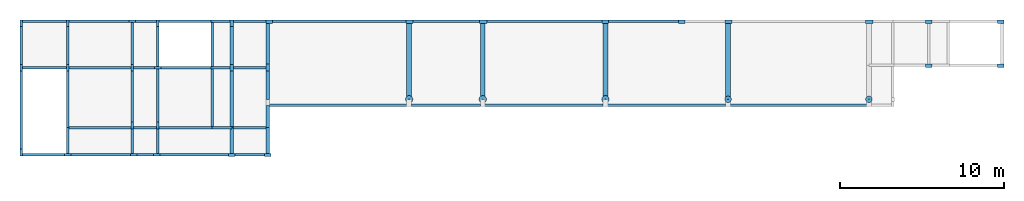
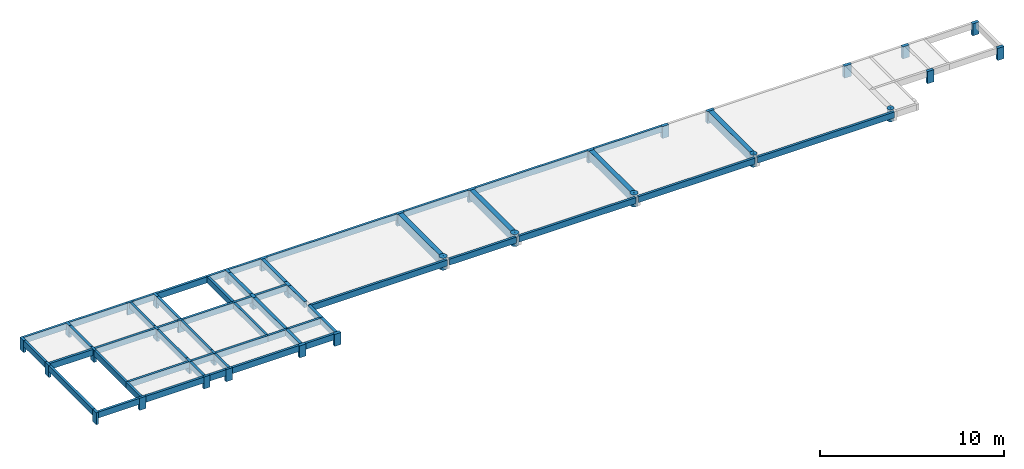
# One storey, part 1 of 2: 55 beams, 35 columns.
"""IFC2X3 building model written with IfcOpenShell, lengths in centimetres."""

import ifcopenshell
import ifcopenshell.guid

model = None  # the IFC model being written
_history = None  # IfcOwnerHistory: only IFC2X3 demands one
_inside = {}  # id of a spatial element -> (the spatial element, [elements in it])
_under = {}  # id of a project, library or spatial element -> (it, [spatial elements below it])
_declared = {}  # id of a project -> (the project, [libraries it declares])
_typed = {}  # id of a type object -> (the type object, [elements of that type])
_made_of = {}  # id of a material, layer set ... -> (it, [elements and type objects made of it])


def new_model(schema):
    """Start an empty IFC model of exactly this schema.

    Asked for "IFC4X3", IfcOpenShell would pick the latest addendum, in which some entities
    have other attributes; the version numbers below select the first issue.
    IFC2X3 requires an IfcOwnerHistory on every rooted entity: one is made here for all.
    """
    global model, _history
    if schema == "IFC4X3":
        model = ifcopenshell.file(schema_version=(4, 3, 0, 0))
    else:
        model = ifcopenshell.file(schema=schema)
    _inside.clear()
    _under.clear()
    _declared.clear()
    _typed.clear()
    _made_of.clear()
    _history = None
    if model.schema == "IFC2X3":
        org = make("IfcOrganization", Name="unknown")
        user = make(
            "IfcPersonAndOrganization",
            ThePerson=make("IfcPerson", FamilyName="unknown"),
            TheOrganization=org,
        )
        app = make(
            "IfcApplication",
            ApplicationDeveloper=org,
            Version="unknown",
            ApplicationFullName="unknown",
            ApplicationIdentifier="unknown",
        )
        _history = make(
            "IfcOwnerHistory",
            OwningUser=user,
            OwningApplication=app,
            ChangeAction="ADDED",
            CreationDate=0,
        )
    return model


def make(cls, **values):
    """One entity of the class cls with the attributes given. An attribute that is None is left unset."""
    return model.create_entity(
        cls, **{name: value for name, value in values.items() if value is not None}
    )


def rooted(cls, **values):
    """An entity with a GlobalId (a new one), such as an element, a storey or a relation."""
    return make(cls, GlobalId=ifcopenshell.guid.new(), OwnerHistory=_history, **values)


def si_unit(unit_type, name, prefix=None):
    """IfcSIUnit, for example si_unit("LENGTHUNIT", "METRE", prefix="MILLI")."""
    return make("IfcSIUnit", UnitType=unit_type, Prefix=prefix, Name=name)


def derived_unit(unit_type, elements):
    """IfcDerivedUnit: a product of units, each with its exponent."""
    return make(
        "IfcDerivedUnit",
        Elements=[
            make("IfcDerivedUnitElement", Unit=unit, Exponent=power)
            for unit, power in elements
        ],
        UnitType=unit_type,
    )


def assignment(units):
    """IfcUnitAssignment: the units of a project."""
    return None if units is None else make("IfcUnitAssignment", Units=units)


def point(xyz):
    """IfcCartesianPoint."""
    return None if xyz is None else make("IfcCartesianPoint", Coordinates=xyz)


def direction(xyz):
    """IfcDirection."""
    return None if xyz is None else make("IfcDirection", DirectionRatios=xyz)


def frame(location, z_axis=None, x_axis=None):
    """IfcAxis2Placement3D, a coordinate frame: its origin and axes. An axis left out is left unset."""
    return make(
        "IfcAxis2Placement3D",
        Location=point(location),
        Axis=direction(z_axis),
        RefDirection=direction(x_axis),
    )


def frame_2d(location, x_axis=None):
    """IfcAxis2Placement2D, a coordinate frame in the plane: its origin and x axis."""
    return make(
        "IfcAxis2Placement2D", Location=point(location), RefDirection=direction(x_axis)
    )


def origin():
    """The frame at (0, 0, 0) with its axes left unset."""
    return frame((0.0, 0.0, 0.0))


def origin_with_axes():
    """The frame at (0, 0, 0) with the z axis (0, 0, 1) and the x axis (1, 0, 0) written out."""
    return frame((0.0, 0.0, 0.0), z_axis=(0.0, 0.0, 1.0), x_axis=(1.0, 0.0, 0.0))


def origin_2d_with_axis():
    """The frame at (0, 0) in the plane with the x axis (1, 0) written out."""
    return frame_2d((0.0, 0.0), x_axis=(1.0, 0.0))


def place(relative_to, where):
    """IfcLocalPlacement: puts the frame where relative to a parent placement (None: the world)."""
    return make(
        "IfcLocalPlacement", PlacementRelTo=relative_to, RelativePlacement=where
    )


def context(
    kind, dimensions, precision=None, world=None, true_north=None, identifier=None
):
    """IfcGeometricRepresentationContext, for example the 3D "Model" context."""
    return make(
        "IfcGeometricRepresentationContext",
        ContextIdentifier=identifier,
        ContextType=kind,
        CoordinateSpaceDimension=dimensions,
        Precision=precision,
        WorldCoordinateSystem=world,
        TrueNorth=true_north,
    )


def project(units=None, contexts=None):
    """IfcProject with its units and contexts."""
    return rooted(
        "IfcProject",
        Name="project",
        RepresentationContexts=contexts,
        UnitsInContext=assignment(units),
    )


def spatial(cls, under=None, at=None, **own):
    """A site, building, storey or space (cls), placed at a placement, below another one or the project."""
    s = rooted(cls, ObjectPlacement=at, **own)
    if under is not None:
        _under.setdefault(under.id(), (under, []))[1].append(s)
    return s


def profile(cls, at=None, kind="AREA", **sizes):
    """A parametric profile (cls). Its sizes go by their IFC names, for example OverallWidth=200.0."""
    return make(cls, ProfileType=kind, Position=at, **sizes)


def rectangle(**sizes):
    """IfcRectangleProfileDef."""
    return profile("IfcRectangleProfileDef", **sizes)


def hollow_circle(**sizes):
    """IfcCircleHollowProfileDef."""
    return profile("IfcCircleHollowProfileDef", **sizes)


def extrude(swept, where, along, depth):
    """IfcExtrudedAreaSolid: the profile swept, set in the frame where, extruded along a direction by depth."""
    return make(
        "IfcExtrudedAreaSolid",
        SweptArea=swept,
        Position=where,
        ExtrudedDirection=direction(along),
        Depth=depth,
    )


def shape(context_of_items, identifier, shape_type, items):
    """IfcShapeRepresentation: the items that make up one representation, for example the "Body"."""
    return make(
        "IfcShapeRepresentation",
        ContextOfItems=context_of_items,
        RepresentationIdentifier=identifier,
        RepresentationType=shape_type,
        Items=items,
    )


def material(Name=None, Category=None):
    """IfcMaterial."""
    return make("IfcMaterial", Name=Name, Category=Category)


def made_of(thing, what):
    """Note that an element or type object is made of a material, layer set ...; save() writes the relation."""
    if what is not None:
        _made_of.setdefault(what.id(), (what, []))[1].append(thing)
    return thing


def element(
    cls,
    number,
    at=None,
    inside=None,
    cuts=None,
    type_object=None,
    material=None,
    context=None,
    identifier="Body",
    shape_type=None,
    held_by="IfcProductDefinitionShape",
    body=None,
    shapes=None,
    **own,
):
    """One element of the class cls, such as IfcWall. Its Tag is "e" and its number.

    at: its placement. inside: the storey or other place that contains it. cuts: it is an
    opening in that element (IfcRelVoidsElement). A single representation is given by context,
    identifier, shape_type and body (its items); several are given by shapes. held_by: the class
    of the entity that holds the representations. save() writes the other relations.
    """
    e = rooted(cls, Tag="e%d" % number, ObjectPlacement=at, **own)
    if body is not None:
        shapes = [shape(context, identifier, shape_type, body)]
    if shapes is not None:
        e.Representation = make(held_by, Representations=shapes)
    if inside is not None:
        _inside.setdefault(inside.id(), (inside, []))[1].append(e)
    if cuts is not None:
        rooted(
            "IfcRelVoidsElement", RelatingBuildingElement=cuts, RelatedOpeningElement=e
        )
    if type_object is not None:
        _typed.setdefault(type_object.id(), (type_object, []))[1].append(e)
    return made_of(e, material)


def aggregate(whole, parts):
    """IfcRelAggregates: a whole, such as a stair, and the parts it consists of."""
    return rooted("IfcRelAggregates", RelatingObject=whole, RelatedObjects=parts)


def save(model, path):
    """Write the relations noted so far, then the file.

    IfcRelAggregates (storeys below a building ...), IfcRelContainedInSpatialStructure (elements
    in a storey), IfcRelDefinesByType, IfcRelAssociatesMaterial and IfcRelDeclares: one each for
    every whole, place, type object, material and project.
    """
    for whole, parts in _under.values():
        aggregate(whole, parts)
    for where, things in _inside.values():
        rooted(
            "IfcRelContainedInSpatialStructure",
            RelatedElements=things,
            RelatingStructure=where,
        )
    for kind, things in _typed.values():
        rooted("IfcRelDefinesByType", RelatedObjects=things, RelatingType=kind)
    for what, things in _made_of.values():
        rooted("IfcRelAssociatesMaterial", RelatedObjects=things, RelatingMaterial=what)
    for by, libraries in _declared.values():
        rooted("IfcRelDeclares", RelatingContext=by, RelatedDefinitions=libraries)
    model.write(path)


model = new_model("IFC2X3")

# Units and contexts
model_context = context("Model", 3, precision=1e-05, world=origin_with_axes(), identifier="Body")
ifc_project = project(units=[si_unit("LENGTHUNIT", "METRE", prefix="CENTI"), si_unit("VOLUMEUNIT", "CUBIC_METRE"), si_unit("AREAUNIT", "SQUARE_METRE"), si_unit("POWERUNIT", "WATT"), si_unit("LUMINOUSFLUXUNIT", "LUMEN"), si_unit("ELECTRICCURRENTUNIT", "AMPERE"), si_unit("PRESSUREUNIT", "PASCAL", prefix="KILO"), si_unit("MASSUNIT", "GRAM", prefix="KILO"), si_unit("PLANEANGLEUNIT", "RADIAN"), derived_unit("VOLUMETRICFLOWRATEUNIT", [(si_unit("LENGTHUNIT", "METRE"), 3), (si_unit("TIMEUNIT", "SECOND"), -1)])], contexts=[model_context])

# Site, building, storey
site_placement = place(None, origin_with_axes())
site = spatial("IfcSite", under=ifc_project, at=site_placement)
building_placement = place(site_placement, origin())
building = spatial("IfcBuilding", under=site, at=building_placement)
placement = place(building_placement, origin_with_axes())
storey_placement = place(placement, frame((0.0, 0.0, 80.0), z_axis=(0.0, 0.0, 1.0), x_axis=(1.0, 0.0, 0.0)))
storey = spatial("IfcBuildingStorey", under=building, at=storey_placement, Name="02. Térreo", CompositionType="ELEMENT", Elevation=80.0)

# Columns
ifc_material = material(Name="Concreto")
column_1_placement = place(storey_placement, frame((-1732.96, -294.11, 0.0), z_axis=(0.0, 0.0, 1.0), x_axis=(1.0, 0.0, 0.0)))
element("IfcColumn", 1, at=column_1_placement, inside=storey, material=ifc_material, Name="P1", context=model_context, shape_type="SolidModel", body=[
    extrude(rectangle(XDim=15.0, YDim=40.0, at=origin_2d_with_axis()), origin_with_axes(), (0.0, 0.0, -1.0), 80.0),
])
for number, where, z_axis, x_axis, name in (
    (2, (1838.54, -284.11, 0.0), (0.0, 0.0, 1.0), (1.0, 0.0, 0.0), "P10"),
    (3, (2305.54, -284.11, 0.0), (0.0, 0.0, 1.0), (1.0, 0.0, 0.0), "P11"),
):
    element("IfcColumn", number, at=place(storey_placement, frame(where, z_axis=z_axis, x_axis=x_axis)), inside=storey, material=ifc_material, Name=name, context=model_context, shape_type="SolidModel", body=[
        extrude(rectangle(XDim=20.0, YDim=40.0, at=origin_2d_with_axis()), frame((0.0, 0.0, 0.0), z_axis=(0.0, 0.0, 1.0), x_axis=(0.0, -1.0, 0.0)), (0.0, 0.0, -1.0), 80.0),
    ])
for number, where, z_axis, x_axis, name in (
    (4, (2591.04, -284.11, 0.0), (0.0, 0.0, 1.0), (1.0, 0.0, 0.0), "P12"),
    (5, (3452.04, -284.11, 0.0), (0.0, 0.0, 1.0), (1.0, 0.0, 0.0), "P13"),
):
    element("IfcColumn", number, at=place(storey_placement, frame(where, z_axis=z_axis, x_axis=x_axis)), inside=storey, material=ifc_material, Name=name, context=model_context, shape_type="SolidModel", body=[
        extrude(rectangle(XDim=20.0, YDim=45.0, at=origin_2d_with_axis()), frame((0.0, 0.0, 0.0), z_axis=(0.0, 0.0, 1.0), x_axis=(0.0, -1.0, 0.0)), (0.0, 0.0, -1.0), 80.0),
    ])
for number, where, z_axis, x_axis, name in (
    (6, (3816.04, -284.11, 0.0), (0.0, 0.0, 1.0), (1.0, 0.0, 0.0), "P14"),
    (7, (4255.54, -284.11, 0.0), (0.0, 0.0, 1.0), (1.0, 0.0, 0.0), "P15"),
):
    element("IfcColumn", number, at=place(storey_placement, frame(where, z_axis=z_axis, x_axis=x_axis)), inside=storey, material=ifc_material, Name=name, context=model_context, shape_type="SolidModel", body=[
        extrude(rectangle(XDim=20.0, YDim=40.0, at=origin_2d_with_axis()), frame((0.0, 0.0, 0.0), z_axis=(0.0, 0.0, 1.0), x_axis=(0.0, -1.0, 0.0)), (0.0, 0.0, -1.0), 80.0),
    ])
for number, where, z_axis, x_axis, name in (
    (8, (-1732.96, -566.61, 0.0), (0.0, 0.0, 1.0), (1.0, 0.0, 0.0), "P16"),
    (9, (-1447.96, -566.61, 0.0), (0.0, 0.0, 1.0), (1.0, 0.0, 0.0), "P17"),
):
    element("IfcColumn", number, at=place(storey_placement, frame(where, z_axis=z_axis, x_axis=x_axis)), inside=storey, material=ifc_material, Name=name, context=model_context, shape_type="SolidModel", body=[
        extrude(rectangle(XDim=15.0, YDim=40.0, at=origin_2d_with_axis()), origin_with_axes(), (0.0, 0.0, -1.0), 80.0),
    ])
column_2_placement = place(storey_placement, frame((-1052.96, -566.61, 0.0), z_axis=(0.0, 0.0, 1.0), x_axis=(1.0, 0.0, 0.0)))
element("IfcColumn", 10, at=column_2_placement, inside=storey, material=ifc_material, Name="P18", context=model_context, shape_type="SolidModel", body=[
    extrude(rectangle(XDim=15.0, YDim=40.0, at=origin_2d_with_axis()), frame((0.0, 0.0, 0.0), z_axis=(0.0, 0.0, 1.0), x_axis=(-1.0, 0.0, 0.0)), (0.0, 0.0, -1.0), 80.0),
])
column_3_placement = place(storey_placement, frame((-897.96, -566.61, 0.0), z_axis=(0.0, 0.0, 1.0), x_axis=(1.0, 0.0, 0.0)))
element("IfcColumn", 11, at=column_3_placement, inside=storey, material=ifc_material, Name="P19", context=model_context, shape_type="SolidModel", body=[
    extrude(rectangle(XDim=15.0, YDim=40.0, at=origin_2d_with_axis()), frame((0.0, 0.0, 0.0), z_axis=(0.0, 0.0, 1.0), x_axis=(0.0, -1.0, 0.0)), (0.0, 0.0, -1.0), 80.0),
])
column_4_placement = place(storey_placement, frame((-1447.96, -294.11, 0.0), z_axis=(0.0, 0.0, 1.0), x_axis=(1.0, 0.0, 0.0)))
element("IfcColumn", 12, at=column_4_placement, inside=storey, material=ifc_material, Name="P2", context=model_context, shape_type="SolidModel", body=[
    extrude(rectangle(XDim=15.0, YDim=40.0, at=origin_2d_with_axis()), origin_with_axes(), (0.0, 0.0, -1.0), 80.0),
])
column_5_placement = place(storey_placement, frame((-445.46, -566.61, 0.0), z_axis=(0.0, 0.0, 1.0), x_axis=(1.0, 0.0, 0.0)))
element("IfcColumn", 13, at=column_5_placement, inside=storey, material=ifc_material, Name="P20", context=model_context, shape_type="SolidModel", body=[
    extrude(rectangle(XDim=20.0, YDim=40.0, at=origin_2d_with_axis()), origin_with_axes(), (0.0, 0.0, -1.0), 80.0),
])
column_6_placement = place(storey_placement, frame((-225.46, -564.11, 0.0), z_axis=(0.0, 0.0, 1.0), x_axis=(1.0, 0.0, 0.0)))
element("IfcColumn", 14, at=column_6_placement, inside=storey, material=ifc_material, Name="P21", context=model_context, shape_type="SolidModel", body=[
    extrude(rectangle(XDim=20.0, YDim=45.0, at=origin_2d_with_axis()), origin_with_axes(), (0.0, 0.0, -1.0), 80.0),
])
for number, where, z_axis, x_axis, name in (
    (15, (3816.04, -554.11, 0.0), (0.0, 0.0, 1.0), (1.0, 0.0, 0.0), "P22"),
    (16, (4255.54, -554.11, 0.0), (0.0, 0.0, 1.0), (1.0, 0.0, 0.0), "P23"),
):
    element("IfcColumn", number, at=place(storey_placement, frame(where, z_axis=z_axis, x_axis=x_axis)), inside=storey, material=ifc_material, Name=name, context=model_context, shape_type="SolidModel", body=[
        extrude(rectangle(XDim=20.0, YDim=40.0, at=origin_2d_with_axis()), frame((0.0, 0.0, 0.0), z_axis=(0.0, 0.0, 1.0), x_axis=(0.0, -1.0, 0.0)), (0.0, 0.0, -1.0), 80.0),
    ])
for number, where, z_axis, x_axis, name in (
    (17, (638.67, -758.96, 0.0), (0.0, 0.0, 1.0), (1.0, 0.0, 0.0), "P28"),
    (18, (1088.67, -758.96, 0.0), (0.0, 0.0, 1.0), (1.0, 0.0, 0.0), "P29"),
):
    element("IfcColumn", number, at=place(storey_placement, frame(where, z_axis=z_axis, x_axis=x_axis)), inside=storey, material=ifc_material, Name=name, context=model_context, shape_type="SolidModel", body=[
        extrude(hollow_circle(Radius=22.5, WallThickness=20.0, at=origin_2d_with_axis()), origin_with_axes(), (0.0, 0.0, -1.0), 80.0),
    ])
column_7_placement = place(storey_placement, frame((-1052.96, -282.08, 0.0), z_axis=(0.0, 0.0, 1.0), x_axis=(1.0, 0.0, 0.0)))
element("IfcColumn", 19, at=column_7_placement, inside=storey, material=ifc_material, Name="P3", context=model_context, shape_type="SolidModel", body=[
    extrude(rectangle(XDim=15.0, YDim=40.0, at=origin_2d_with_axis()), frame((0.0, 0.0, 0.0), z_axis=(0.0, 0.0, 1.0), x_axis=(0.0, -1.0, 0.0)), (0.0, 0.0, -1.0), 80.0),
])
column_8_placement = place(storey_placement, frame((1838.67, -758.96, 0.0), z_axis=(0.0, 0.0, 1.0), x_axis=(1.0, 0.0, 0.0)))
element("IfcColumn", 20, at=column_8_placement, inside=storey, material=ifc_material, Name="P30", context=model_context, shape_type="SolidModel", body=[
    extrude(hollow_circle(Radius=22.5, WallThickness=20.0, at=origin_2d_with_axis()), origin_with_axes(), (0.0, 0.0, -1.0), 80.0),
])
for number, where, z_axis, x_axis, name in (
    (21, (2588.67, -758.96, 0.0), (0.0, 0.0, 1.0), (1.0, 0.0, 0.0), "P31"),
    (22, (3449.67, -758.96, 0.0), (0.0, 0.0, 1.0), (1.0, 0.0, 0.0), "P32"),
):
    element("IfcColumn", number, at=place(storey_placement, frame(where, z_axis=z_axis, x_axis=x_axis)), inside=storey, material=ifc_material, Name=name, context=model_context, shape_type="SolidModel", body=[
        extrude(hollow_circle(Radius=20.0, WallThickness=17.5, at=origin_2d_with_axis()), origin_with_axes(), (0.0, 0.0, -1.0), 80.0),
    ])
column_9_placement = place(storey_placement, frame((-1052.96, -919.11, 0.0), z_axis=(0.0, 0.0, 1.0), x_axis=(1.0, 0.0, 0.0)))
element("IfcColumn", 23, at=column_9_placement, inside=storey, material=ifc_material, Name="P33", context=model_context, shape_type="SolidModel", body=[
    extrude(rectangle(XDim=15.0, YDim=40.0, at=origin_2d_with_axis()), frame((0.0, 0.0, 0.0), z_axis=(0.0, 0.0, 1.0), x_axis=(-1.0, 0.0, 0.0)), (0.0, 0.0, -1.0), 80.0),
])
for number, where, z_axis, x_axis, name in (
    (24, (-897.96, -919.11, 0.0), (0.0, 0.0, 1.0), (1.0, 0.0, 0.0), "P34"),
    (25, (-1732.96, -1084.11, 0.0), (0.0, 0.0, 1.0), (1.0, 0.0, 0.0), "P35"),
):
    element("IfcColumn", number, at=place(storey_placement, frame(where, z_axis=z_axis, x_axis=x_axis)), inside=storey, material=ifc_material, Name=name, context=model_context, shape_type="SolidModel", body=[
        extrude(rectangle(XDim=15.0, YDim=40.0, at=origin_2d_with_axis()), origin_with_axes(), (0.0, 0.0, -1.0), 80.0),
    ])
for number, where, z_axis, x_axis, name in (
    (26, (-1447.96, -1096.61, 0.0), (0.0, 0.0, 1.0), (1.0, 0.0, 0.0), "P36"),
    (27, (-1044.96, -1096.6, 0.0), (0.0, 0.0, 1.0), (1.0, 0.0, 0.0), "P37"),
    (28, (-904.46, -1096.6, 0.0), (0.0, 0.0, 1.0), (1.0, 0.0, 0.0), "P38"),
):
    element("IfcColumn", number, at=place(storey_placement, frame(where, z_axis=z_axis, x_axis=x_axis)), inside=storey, material=ifc_material, Name=name, context=model_context, shape_type="SolidModel", body=[
        extrude(rectangle(XDim=15.0, YDim=40.0, at=origin_2d_with_axis()), frame((0.0, 0.0, 0.0), z_axis=(0.0, 0.0, 1.0), x_axis=(0.0, -1.0, 0.0)), (0.0, 0.0, -1.0), 80.0),
    ])
column_10_placement = place(storey_placement, frame((-445.46, -1099.1, 0.0), z_axis=(0.0, 0.0, 1.0), x_axis=(1.0, 0.0, 0.0)))
element("IfcColumn", 29, at=column_10_placement, inside=storey, material=ifc_material, Name="P39", context=model_context, shape_type="SolidModel", body=[
    extrude(rectangle(XDim=20.0, YDim=40.0, at=origin_2d_with_axis()), frame((0.0, 0.0, 0.0), z_axis=(0.0, 0.0, 1.0), x_axis=(0.0, -1.0, 0.0)), (0.0, 0.0, -1.0), 80.0),
])
column_11_placement = place(storey_placement, frame((-897.96, -294.11, 0.0), z_axis=(0.0, 0.0, 1.0), x_axis=(1.0, 0.0, 0.0)))
element("IfcColumn", 30, at=column_11_placement, inside=storey, material=ifc_material, Name="P4", context=model_context, shape_type="SolidModel", body=[
    extrude(rectangle(XDim=15.0, YDim=40.0, at=origin_2d_with_axis()), origin_with_axes(), (0.0, 0.0, -1.0), 80.0),
])
column_12_placement = place(storey_placement, frame((-225.46, -1099.1, 0.0), z_axis=(0.0, 0.0, 1.0), x_axis=(1.0, 0.0, 0.0)))
element("IfcColumn", 31, at=column_12_placement, inside=storey, material=ifc_material, Name="P40", context=model_context, shape_type="SolidModel", body=[
    extrude(rectangle(XDim=20.0, YDim=40.0, at=origin_2d_with_axis()), frame((0.0, 0.0, 0.0), z_axis=(0.0, 0.0, 1.0), x_axis=(0.0, -1.0, 0.0)), (0.0, 0.0, -1.0), 80.0),
])
column_13_placement = place(storey_placement, frame((-445.46, -294.11, 0.0), z_axis=(0.0, 0.0, 1.0), x_axis=(1.0, 0.0, 0.0)))
element("IfcColumn", 32, at=column_13_placement, inside=storey, material=ifc_material, Name="P5", context=model_context, shape_type="SolidModel", body=[
    extrude(rectangle(XDim=20.0, YDim=40.0, at=origin_2d_with_axis()), origin_with_axes(), (0.0, 0.0, -1.0), 80.0),
])
column_14_placement = place(storey_placement, frame((-215.46, -284.11, 0.0), z_axis=(0.0, 0.0, 1.0), x_axis=(1.0, 0.0, 0.0)))
element("IfcColumn", 33, at=column_14_placement, inside=storey, material=ifc_material, Name="P6", context=model_context, shape_type="SolidModel", body=[
    extrude(rectangle(XDim=20.0, YDim=40.0, at=origin_2d_with_axis()), frame((0.0, 0.0, 0.0), z_axis=(0.0, 0.0, 1.0), x_axis=(0.0, -1.0, 0.0)), (0.0, 0.0, -1.0), 80.0),
])
for number, where, z_axis, x_axis, name in (
    (34, (641.04, -284.11, 0.0), (0.0, 0.0, 1.0), (1.0, 0.0, 0.0), "P8"),
    (35, (1091.04, -284.11, 0.0), (0.0, 0.0, 1.0), (1.0, 0.0, 0.0), "P9"),
):
    element("IfcColumn", number, at=place(storey_placement, frame(where, z_axis=z_axis, x_axis=x_axis)), inside=storey, material=ifc_material, Name=name, context=model_context, shape_type="SolidModel", body=[
        extrude(rectangle(XDim=20.0, YDim=45.0, at=origin_2d_with_axis()), frame((0.0, 0.0, 0.0), z_axis=(0.0, 0.0, 1.0), x_axis=(0.0, -1.0, 0.0)), (0.0, 0.0, -1.0), 80.0),
    ])

# Beams
beam_1_placement = place(storey_placement, frame((-1590.46, -281.61, 0.0), z_axis=(0.0, 0.0, 1.0), x_axis=(1.0, 0.0, 0.0)))
element("IfcBeam", 36, at=beam_1_placement, inside=storey, material=ifc_material, Name="V1", context=model_context, shape_type="SolidModel", body=[
    extrude(rectangle(XDim=15.0, YDim=40.0, at=origin_2d_with_axis()), frame((-135.0, 0.0, -20.0), z_axis=(1.0, 0.0, 0.0), x_axis=(0.0, -1.0, 0.0)), (0.0, 0.0, 1.0), 270.0),
])
beam_2_placement = place(storey_placement, frame((-979.21, -281.61, 0.0), z_axis=(0.0, 0.0, 1.0), x_axis=(1.0, 0.0, 0.0)))
element("IfcBeam", 37, at=beam_2_placement, inside=storey, material=ifc_material, Name="V1", context=model_context, shape_type="SolidModel", body=[
    extrude(rectangle(XDim=15.0, YDim=40.0, at=origin_2d_with_axis()), frame((-73.75, 0.0, -20.0), z_axis=(1.0, 0.0, 0.0), x_axis=(0.0, -1.0, 0.0)), (0.0, 0.0, 1.0), 147.5),
])
beam_3_placement = place(storey_placement, frame((-727.96, -281.61, 0.0), z_axis=(0.0, 0.0, 1.0), x_axis=(1.0, 0.0, 0.0)))
element("IfcBeam", 38, at=beam_3_placement, inside=storey, material=ifc_material, Name="V1", context=model_context, shape_type="SolidModel", body=[
    extrude(rectangle(XDim=15.0, YDim=40.0, at=origin_2d_with_axis()), frame((-162.5, 0.0, -20.0), z_axis=(1.0, 0.0, 0.0), x_axis=(0.0, -1.0, 0.0)), (0.0, 0.0, 1.0), 325.0),
])
beam_4_placement = place(storey_placement, frame((-335.46, -281.61, 0.0), z_axis=(0.0, 0.0, 1.0), x_axis=(1.0, 0.0, 0.0)))
element("IfcBeam", 39, at=beam_4_placement, inside=storey, material=ifc_material, Name="V1", context=model_context, shape_type="SolidModel", body=[
    extrude(rectangle(XDim=15.0, YDim=40.0, at=origin_2d_with_axis()), frame((-100.0, 0.0, -20.0), z_axis=(1.0, 0.0, 0.0), x_axis=(0.0, -1.0, 0.0)), (0.0, 0.0, 1.0), 200.0),
])
beam_5_placement = place(storey_placement, frame((211.54, -281.61, 0.0), z_axis=(0.0, 0.0, 1.0), x_axis=(1.0, 0.0, 0.0)))
element("IfcBeam", 40, at=beam_5_placement, inside=storey, material=ifc_material, Name="V1", context=model_context, shape_type="SolidModel", body=[
    extrude(rectangle(XDim=15.0, YDim=40.0, at=origin_2d_with_axis()), frame((-407.0, 0.0, -20.0), z_axis=(1.0, 0.0, 0.0), x_axis=(0.0, -1.0, 0.0)), (0.0, 0.0, 1.0), 814.0),
])
beam_6_placement = place(storey_placement, frame((-514.21, -281.61, 0.0), z_axis=(0.0, 0.0, 1.0), x_axis=(1.0, 0.0, 0.0)))
element("IfcBeam", 41, at=beam_6_placement, inside=storey, material=ifc_material, Name="V1", context=model_context, shape_type="SolidModel", body=[
    extrude(rectangle(XDim=15.0, YDim=40.0, at=origin_2d_with_axis()), frame((-58.75, 0.0, -20.0), z_axis=(1.0, 0.0, 0.0), x_axis=(0.0, -1.0, 0.0)), (0.0, 0.0, 1.0), 117.5),
])
beam_7_placement = place(storey_placement, frame((-1246.71, -281.61, 0.0), z_axis=(0.0, 0.0, 1.0), x_axis=(1.0, 0.0, 0.0)))
element("IfcBeam", 42, at=beam_7_placement, inside=storey, material=ifc_material, Name="V1", context=model_context, shape_type="SolidModel", body=[
    extrude(rectangle(XDim=15.0, YDim=40.0, at=origin_2d_with_axis()), frame((-193.75, 0.0, -20.0), z_axis=(1.0, 0.0, 0.0), x_axis=(0.0, -1.0, 0.0)), (0.0, 0.0, 1.0), 387.5),
])
beam_8_placement = place(storey_placement, frame((-975.46, -931.61, 0.0), z_axis=(0.0, 0.0, 1.0), x_axis=(1.0, 0.0, 0.0)))
element("IfcBeam", 43, at=beam_8_placement, inside=storey, material=ifc_material, Name="V10", context=model_context, shape_type="SolidModel", body=[
    extrude(rectangle(XDim=15.0, YDim=40.0, at=origin_2d_with_axis()), frame((-70.0, 0.0, -20.0), z_axis=(1.0, 0.0, 0.0), x_axis=(0.0, -1.0, 0.0)), (0.0, 0.0, 1.0), 140.0),
])
beam_9_placement = place(storey_placement, frame((-1254.21, -931.61, 0.0), z_axis=(0.0, 0.0, 1.0), x_axis=(1.0, 0.0, 0.0)))
element("IfcBeam", 44, at=beam_9_placement, inside=storey, material=ifc_material, Name="V10", context=model_context, shape_type="SolidModel", body=[
    extrude(rectangle(XDim=15.0, YDim=40.0, at=origin_2d_with_axis()), frame((-193.75, 0.0, -20.0), z_axis=(1.0, 0.0, 0.0), x_axis=(0.0, -1.0, 0.0)), (0.0, 0.0, 1.0), 387.5),
])
beam_10_placement = place(storey_placement, frame((-505.46, -931.61, 0.0), z_axis=(0.0, 0.0, 1.0), x_axis=(1.0, 0.0, 0.0)))
element("IfcBeam", 45, at=beam_10_placement, inside=storey, material=ifc_material, Name="V11", context=model_context, shape_type="SolidModel", body=[
    extrude(rectangle(XDim=15.0, YDim=40.0, at=origin_2d_with_axis()), frame((-60.0, 0.0, -20.0), z_axis=(1.0, 0.0, 0.0), x_axis=(0.0, -1.0, 0.0)), (0.0, 0.0, 1.0), 120.0),
])
beam_11_placement = place(storey_placement, frame((-727.96, -931.61, 0.0), z_axis=(0.0, 0.0, 1.0), x_axis=(1.0, 0.0, 0.0)))
element("IfcBeam", 46, at=beam_11_placement, inside=storey, material=ifc_material, Name="V11", context=model_context, shape_type="SolidModel", body=[
    extrude(rectangle(XDim=15.0, YDim=40.0, at=origin_2d_with_axis()), frame((-162.5, 0.0, -20.0), z_axis=(1.0, 0.0, 0.0), x_axis=(0.0, -1.0, 0.0)), (0.0, 0.0, 1.0), 325.0),
])
beam_12_placement = place(storey_placement, frame((-335.46, -931.61, 0.0), z_axis=(0.0, 0.0, 1.0), x_axis=(1.0, 0.0, 0.0)))
element("IfcBeam", 47, at=beam_12_placement, inside=storey, material=ifc_material, Name="V11", context=model_context, shape_type="SolidModel", body=[
    extrude(rectangle(XDim=15.0, YDim=40.0, at=origin_2d_with_axis()), frame((-110.0, 0.0, -20.0), z_axis=(1.0, 0.0, 0.0), x_axis=(0.0, -1.0, 0.0)), (0.0, 0.0, 1.0), 220.0),
])
beam_13_placement = place(storey_placement, frame((-1596.71, -1096.6, 0.0), z_axis=(0.0, 0.0, 1.0), x_axis=(1.0, 0.0, 0.0)))
element("IfcBeam", 48, at=beam_13_placement, inside=storey, material=ifc_material, Name="V12", context=model_context, shape_type="SolidModel", body=[
    extrude(rectangle(XDim=15.0, YDim=40.0, at=origin_2d_with_axis()), frame((-128.75, 0.0, -20.0), z_axis=(1.0, 0.0, 0.0), x_axis=(0.0, -1.0, 0.0)), (0.0, 0.0, 1.0), 257.5),
])
beam_14_placement = place(storey_placement, frame((-1246.46, -1096.6, 0.0), z_axis=(0.0, 0.0, 1.0), x_axis=(1.0, 0.0, 0.0)))
element("IfcBeam", 49, at=beam_14_placement, inside=storey, material=ifc_material, Name="V12", context=model_context, shape_type="SolidModel", body=[
    extrude(rectangle(XDim=15.0, YDim=40.0, at=origin_2d_with_axis()), frame((-181.5, 0.0, -20.0), z_axis=(1.0, 0.0, 0.0), x_axis=(0.0, -1.0, 0.0)), (0.0, 0.0, 1.0), 363.0),
])
beam_15_placement = place(storey_placement, frame((-974.71, -1096.6, 0.0), z_axis=(0.0, 0.0, 1.0), x_axis=(1.0, 0.0, 0.0)))
element("IfcBeam", 50, at=beam_15_placement, inside=storey, material=ifc_material, Name="V12", context=model_context, shape_type="SolidModel", body=[
    extrude(rectangle(XDim=15.0, YDim=40.0, at=origin_2d_with_axis()), frame((-50.25, 0.0, -20.0), z_axis=(1.0, 0.0, 0.0), x_axis=(0.0, -1.0, 0.0)), (0.0, 0.0, 1.0), 100.5),
])
beam_16_placement = place(storey_placement, frame((-674.96, -1096.6, 0.0), z_axis=(0.0, 0.0, 1.0), x_axis=(1.0, 0.0, 0.0)))
element("IfcBeam", 51, at=beam_16_placement, inside=storey, material=ifc_material, Name="V12", context=model_context, shape_type="SolidModel", body=[
    extrude(rectangle(XDim=15.0, YDim=40.0, at=origin_2d_with_axis()), frame((-209.5, 0.0, -20.0), z_axis=(1.0, 0.0, 0.0), x_axis=(0.0, -1.0, 0.0)), (0.0, 0.0, 1.0), 419.0),
])
beam_17_placement = place(storey_placement, frame((-335.46, -1096.6, 0.0), z_axis=(0.0, 0.0, 1.0), x_axis=(1.0, 0.0, 0.0)))
element("IfcBeam", 52, at=beam_17_placement, inside=storey, material=ifc_material, Name="V12", context=model_context, shape_type="SolidModel", body=[
    extrude(rectangle(XDim=15.0, YDim=40.0, at=origin_2d_with_axis()), frame((-90.0, 0.0, -20.0), z_axis=(1.0, 0.0, 0.0), x_axis=(0.0, -1.0, 0.0)), (0.0, 0.0, 1.0), 180.0),
])
beam_18_placement = place(storey_placement, frame((-1732.96, -825.36, 0.0), z_axis=(0.0, 0.0, 1.0), x_axis=(1.0, 0.0, 0.0)))
element("IfcBeam", 53, at=beam_18_placement, inside=storey, material=ifc_material, Name="V13", context=model_context, shape_type="SolidModel", body=[
    extrude(rectangle(XDim=15.0, YDim=40.0, at=origin_2d_with_axis()), frame((0.0, -238.75, -20.0), z_axis=(0.0, 1.0, 0.0), x_axis=(-1.0, 0.0, 0.0)), (0.0, 0.0, 1.0), 477.5),
])
beam_19_placement = place(storey_placement, frame((-1732.96, -430.36, 0.0), z_axis=(0.0, 0.0, 1.0), x_axis=(1.0, 0.0, 0.0)))
element("IfcBeam", 54, at=beam_19_placement, inside=storey, material=ifc_material, Name="V13", context=model_context, shape_type="SolidModel", body=[
    extrude(rectangle(XDim=15.0, YDim=40.0, at=origin_2d_with_axis()), frame((0.0, -116.25, -20.0), z_axis=(0.0, 1.0, 0.0), x_axis=(-1.0, 0.0, 0.0)), (0.0, 0.0, 1.0), 232.5),
])
beam_20_placement = place(storey_placement, frame((-1447.96, -759.11, 0.0), z_axis=(0.0, 0.0, 1.0), x_axis=(1.0, 0.0, 0.0)))
element("IfcBeam", 55, at=beam_20_placement, inside=storey, material=ifc_material, Name="V14", context=model_context, shape_type="SolidModel", body=[
    extrude(rectangle(XDim=15.0, YDim=40.0, at=origin_2d_with_axis()), frame((0.0, -172.5, -20.0), z_axis=(0.0, 1.0, 0.0), x_axis=(-1.0, 0.0, 0.0)), (0.0, 0.0, 1.0), 345.0),
])
beam_21_placement = place(storey_placement, frame((-1447.96, -430.36, 0.0), z_axis=(0.0, 0.0, 1.0), x_axis=(1.0, 0.0, 0.0)))
element("IfcBeam", 56, at=beam_21_placement, inside=storey, material=ifc_material, Name="V14", context=model_context, shape_type="SolidModel", body=[
    extrude(rectangle(XDim=15.0, YDim=40.0, at=origin_2d_with_axis()), frame((0.0, -116.25, -20.0), z_axis=(0.0, 1.0, 0.0), x_axis=(-1.0, 0.0, 0.0)), (0.0, 0.0, 1.0), 232.5),
])
beam_22_placement = place(storey_placement, frame((-1447.96, -1010.36, 0.0), z_axis=(0.0, 0.0, 1.0), x_axis=(1.0, 0.0, 0.0)))
element("IfcBeam", 57, at=beam_22_placement, inside=storey, material=ifc_material, Name="V14", context=model_context, shape_type="SolidModel", body=[
    extrude(rectangle(XDim=15.0, YDim=40.0, at=origin_2d_with_axis()), frame((0.0, -78.75, -20.0), z_axis=(0.0, 1.0, 0.0), x_axis=(-1.0, 0.0, 0.0)), (0.0, 0.0, 1.0), 157.5),
])
beam_23_placement = place(storey_placement, frame((-1052.96, -1014.105, 0.0), z_axis=(0.0, 0.0, 1.0), x_axis=(1.0, 0.0, 0.0)))
element("IfcBeam", 58, at=beam_23_placement, inside=storey, material=ifc_material, Name="V15", context=model_context, shape_type="SolidModel", body=[
    extrude(rectangle(XDim=15.0, YDim=40.0, at=origin_2d_with_axis()), frame((0.0, -74.995, -20.0), z_axis=(0.0, 1.0, 0.0), x_axis=(-1.0, 0.0, 0.0)), (0.0, 0.0, 1.0), 149.99),
])
beam_24_placement = place(storey_placement, frame((-1052.96, -742.86, 0.0), z_axis=(0.0, 0.0, 1.0), x_axis=(1.0, 0.0, 0.0)))
element("IfcBeam", 59, at=beam_24_placement, inside=storey, material=ifc_material, Name="V15", context=model_context, shape_type="SolidModel", body=[
    extrude(rectangle(XDim=15.0, YDim=40.0, at=origin_2d_with_axis()), frame((0.0, -156.25, -20.0), z_axis=(0.0, 1.0, 0.0), x_axis=(-1.0, 0.0, 0.0)), (0.0, 0.0, 1.0), 312.5),
])
beam_25_placement = place(storey_placement, frame((-1052.96, -418.095, 0.0), z_axis=(0.0, 0.0, 1.0), x_axis=(1.0, 0.0, 0.0)))
element("IfcBeam", 60, at=beam_25_placement, inside=storey, material=ifc_material, Name="V15", context=model_context, shape_type="SolidModel", body=[
    extrude(rectangle(XDim=15.0, YDim=40.0, at=origin_2d_with_axis()), frame((0.0, -128.515, -20.0), z_axis=(0.0, 1.0, 0.0), x_axis=(-1.0, 0.0, 0.0)), (0.0, 0.0, 1.0), 257.03),
])
beam_26_placement = place(storey_placement, frame((-897.96, -1014.105, 0.0), z_axis=(0.0, 0.0, 1.0), x_axis=(1.0, 0.0, 0.0)))
element("IfcBeam", 61, at=beam_26_placement, inside=storey, material=ifc_material, Name="V16", context=model_context, shape_type="SolidModel", body=[
    extrude(rectangle(XDim=15.0, YDim=40.0, at=origin_2d_with_axis()), frame((0.0, -74.995, -20.0), z_axis=(0.0, 1.0, 0.0), x_axis=(-1.0, 0.0, 0.0)), (0.0, 0.0, 1.0), 149.99),
])
beam_27_placement = place(storey_placement, frame((-897.96, -736.61, 0.0), z_axis=(0.0, 0.0, 1.0), x_axis=(1.0, 0.0, 0.0)))
element("IfcBeam", 62, at=beam_27_placement, inside=storey, material=ifc_material, Name="V16", context=model_context, shape_type="SolidModel", body=[
    extrude(rectangle(XDim=15.0, YDim=40.0, at=origin_2d_with_axis()), frame((0.0, -162.5, -20.0), z_axis=(0.0, 1.0, 0.0), x_axis=(-1.0, 0.0, 0.0)), (0.0, 0.0, 1.0), 325.0),
])
beam_28_placement = place(storey_placement, frame((-897.96, -436.61, 0.0), z_axis=(0.0, 0.0, 1.0), x_axis=(1.0, 0.0, 0.0)))
element("IfcBeam", 63, at=beam_28_placement, inside=storey, material=ifc_material, Name="V16", context=model_context, shape_type="SolidModel", body=[
    extrude(rectangle(XDim=15.0, YDim=40.0, at=origin_2d_with_axis()), frame((0.0, -122.5, -20.0), z_axis=(0.0, 1.0, 0.0), x_axis=(-1.0, 0.0, 0.0)), (0.0, 0.0, 1.0), 245.0),
])
beam_29_placement = place(storey_placement, frame((-565.46, -424.11, 0.0), z_axis=(0.0, 0.0, 1.0), x_axis=(1.0, 0.0, 0.0)))
element("IfcBeam", 64, at=beam_29_placement, inside=storey, material=ifc_material, Name="V17", context=model_context, shape_type="SolidModel", body=[
    extrude(rectangle(XDim=15.0, YDim=40.0, at=origin_2d_with_axis()), frame((0.0, -135.0, -20.0), z_axis=(0.0, 1.0, 0.0), x_axis=(-1.0, 0.0, 0.0)), (0.0, 0.0, 1.0), 270.0),
])
beam_30_placement = place(storey_placement, frame((-565.46, -749.11, 0.0), z_axis=(0.0, 0.0, 1.0), x_axis=(1.0, 0.0, 0.0)))
element("IfcBeam", 65, at=beam_30_placement, inside=storey, material=ifc_material, Name="V17", context=model_context, shape_type="SolidModel", body=[
    extrude(rectangle(XDim=15.0, YDim=40.0, at=origin_2d_with_axis()), frame((0.0, -182.5, -20.0), z_axis=(0.0, 1.0, 0.0), x_axis=(1.0, 0.0, 0.0)), (0.0, 0.0, 1.0), 365.0),
])
beam_31_placement = place(storey_placement, frame((-445.46, -759.11, 0.0), z_axis=(0.0, 0.0, 1.0), x_axis=(1.0, 0.0, 0.0)))
element("IfcBeam", 66, at=beam_31_placement, inside=storey, material=ifc_material, Name="V18", context=model_context, shape_type="SolidModel", body=[
    extrude(rectangle(XDim=20.0, YDim=40.0, at=origin_2d_with_axis()), frame((0.0, -172.5, -20.0), z_axis=(0.0, 1.0, 0.0), x_axis=(1.0, 0.0, 0.0)), (0.0, 0.0, 1.0), 345.0),
])
beam_32_placement = place(storey_placement, frame((-445.46, -430.36, 0.0), z_axis=(0.0, 0.0, 1.0), x_axis=(1.0, 0.0, 0.0)))
element("IfcBeam", 67, at=beam_32_placement, inside=storey, material=ifc_material, Name="V18", context=model_context, shape_type="SolidModel", body=[
    extrude(rectangle(XDim=20.0, YDim=40.0, at=origin_2d_with_axis()), frame((0.0, -116.25, -20.0), z_axis=(0.0, 1.0, 0.0), x_axis=(-1.0, 0.0, 0.0)), (0.0, 0.0, 1.0), 232.5),
])
beam_33_placement = place(storey_placement, frame((-445.46, -1010.355, 0.0), z_axis=(0.0, 0.0, 1.0), x_axis=(1.0, 0.0, 0.0)))
element("IfcBeam", 68, at=beam_33_placement, inside=storey, material=ifc_material, Name="V18", context=model_context, shape_type="SolidModel", body=[
    extrude(rectangle(XDim=20.0, YDim=40.0, at=origin_2d_with_axis()), frame((0.0, -78.745, -20.0), z_axis=(0.0, 1.0, 0.0), x_axis=(1.0, 0.0, 0.0)), (0.0, 0.0, 1.0), 157.49),
])
beam_34_placement = place(storey_placement, frame((-225.46, -864.11, 0.0), z_axis=(0.0, 0.0, 1.0), x_axis=(1.0, 0.0, 0.0)))
element("IfcBeam", 69, at=beam_34_placement, inside=storey, material=ifc_material, Name="V19", context=model_context, shape_type="SolidModel", body=[
    extrude(rectangle(XDim=20.0, YDim=40.0, at=origin_2d_with_axis()), frame((0.0, -67.5, -20.0), z_axis=(0.0, 1.0, 0.0), x_axis=(1.0, 0.0, 0.0)), (0.0, 0.0, 1.0), 135.0),
])
beam_35_placement = place(storey_placement, frame((-225.46, -672.785, 0.0), z_axis=(0.0, 0.0, 1.0), x_axis=(1.0, 0.0, 0.0)))
element("IfcBeam", 70, at=beam_35_placement, inside=storey, material=ifc_material, Name="V19", context=model_context, shape_type="SolidModel", body=[
    extrude(rectangle(XDim=20.0, YDim=40.0, at=origin_2d_with_axis()), frame((0.0, -86.175, -20.0), z_axis=(0.0, 1.0, 0.0), x_axis=(1.0, 0.0, 0.0)), (0.0, 0.0, 1.0), 172.35),
])
beam_36_placement = place(storey_placement, frame((-225.46, -1010.355, 0.0), z_axis=(0.0, 0.0, 1.0), x_axis=(1.0, 0.0, 0.0)))
element("IfcBeam", 71, at=beam_36_placement, inside=storey, material=ifc_material, Name="V19", context=model_context, shape_type="SolidModel", body=[
    extrude(rectangle(XDim=20.0, YDim=40.0, at=origin_2d_with_axis()), frame((0.0, -78.745, -20.0), z_axis=(0.0, 1.0, 0.0), x_axis=(1.0, 0.0, 0.0)), (0.0, 0.0, 1.0), 157.49),
])
beam_37_placement = place(storey_placement, frame((2072.04, -281.61, 0.0), z_axis=(0.0, 0.0, 1.0), x_axis=(1.0, 0.0, 0.0)))
element("IfcBeam", 72, at=beam_37_placement, inside=storey, material=ifc_material, Name="V2", context=model_context, shape_type="SolidModel", body=[
    extrude(rectangle(XDim=15.0, YDim=40.0, at=origin_2d_with_axis()), frame((-213.5, 0.0, -20.0), z_axis=(1.0, 0.0, 0.0), x_axis=(0.0, 1.0, 0.0)), (0.0, 0.0, 1.0), 427.0),
])
beam_38_placement = place(storey_placement, frame((866.04, -281.61, 0.0), z_axis=(0.0, 0.0, 1.0), x_axis=(1.0, 0.0, 0.0)))
element("IfcBeam", 73, at=beam_38_placement, inside=storey, material=ifc_material, Name="V2", context=model_context, shape_type="SolidModel", body=[
    extrude(rectangle(XDim=15.0, YDim=40.0, at=origin_2d_with_axis()), frame((-202.5, 0.0, -20.0), z_axis=(1.0, 0.0, 0.0), x_axis=(0.0, 1.0, 0.0)), (0.0, 0.0, 1.0), 405.0),
])
beam_39_placement = place(storey_placement, frame((1466.04, -281.61, 0.0), z_axis=(0.0, 0.0, 1.0), x_axis=(1.0, 0.0, 0.0)))
element("IfcBeam", 74, at=beam_39_placement, inside=storey, material=ifc_material, Name="V2", context=model_context, shape_type="SolidModel", body=[
    extrude(rectangle(XDim=15.0, YDim=40.0, at=origin_2d_with_axis()), frame((-352.5, 0.0, -20.0), z_axis=(1.0, 0.0, 0.0), x_axis=(0.0, 1.0, 0.0)), (0.0, 0.0, 1.0), 705.0),
])
beam_40_placement = place(storey_placement, frame((-225.46, -417.86, 0.0), z_axis=(0.0, 0.0, 1.0), x_axis=(1.0, 0.0, 0.0)))
element("IfcBeam", 75, at=beam_40_placement, inside=storey, material=ifc_material, Name="V20", context=model_context, shape_type="SolidModel", body=[
    extrude(rectangle(XDim=20.0, YDim=40.0, at=origin_2d_with_axis()), frame((0.0, -123.75, -20.0), z_axis=(0.0, 1.0, 0.0), x_axis=(1.0, 0.0, 0.0)), (0.0, 0.0, 1.0), 247.5),
])
for number, where, z_axis, x_axis, name in (
    (76, (638.67, -526.535, 0.0), (0.0, 0.0, 1.0), (1.0, 0.0, 0.0), "V21"),
    (77, (1088.67, -526.535, 0.0), (0.0, 0.0, 1.0), (1.0, 0.0, 0.0), "V22"),
    (78, (1838.67, -526.535, 0.0), (0.0, 0.0, 1.0), (1.0, 0.0, 0.0), "V23"),
    (79, (2588.67, -526.535, 0.0), (0.0, 0.0, 1.0), (1.0, 0.0, 0.0), "V24"),
):
    element("IfcBeam", number, at=place(storey_placement, frame(where, z_axis=z_axis, x_axis=x_axis)), inside=storey, material=ifc_material, Name=name, context=model_context, shape_type="SolidModel", body=[
        extrude(rectangle(XDim=30.0, YDim=60.0, at=origin_2d_with_axis()), frame((0.0, -232.425, -30.0), z_axis=(0.0, 1.0, 0.0), x_axis=(1.0, 0.0, 0.0)), (0.0, 0.0, 1.0), 464.85),
    ])
beam_41_placement = place(storey_placement, frame((-721.71, -566.61, 0.0), z_axis=(0.0, 0.0, 1.0), x_axis=(1.0, 0.0, 0.0)))
element("IfcBeam", 80, at=beam_41_placement, inside=storey, material=ifc_material, Name="V4", context=model_context, shape_type="SolidModel", body=[
    extrude(rectangle(XDim=15.0, YDim=40.0, at=origin_2d_with_axis()), frame((-156.25, 0.0, -20.0), z_axis=(1.0, 0.0, 0.0), x_axis=(0.0, -1.0, 0.0)), (0.0, 0.0, 1.0), 312.5),
])
beam_42_placement = place(storey_placement, frame((-1590.46, -566.61, 0.0), z_axis=(0.0, 0.0, 1.0), x_axis=(1.0, 0.0, 0.0)))
element("IfcBeam", 81, at=beam_42_placement, inside=storey, material=ifc_material, Name="V4", context=model_context, shape_type="SolidModel", body=[
    extrude(rectangle(XDim=15.0, YDim=40.0, at=origin_2d_with_axis()), frame((-135.0, 0.0, -20.0), z_axis=(1.0, 0.0, 0.0), x_axis=(0.0, -1.0, 0.0)), (0.0, 0.0, 1.0), 270.0),
])
beam_43_placement = place(storey_placement, frame((-1250.46, -566.61, 0.0), z_axis=(0.0, 0.0, 1.0), x_axis=(1.0, 0.0, 0.0)))
element("IfcBeam", 82, at=beam_43_placement, inside=storey, material=ifc_material, Name="V4", context=model_context, shape_type="SolidModel", body=[
    extrude(rectangle(XDim=15.0, YDim=40.0, at=origin_2d_with_axis()), frame((-190.0, 0.0, -20.0), z_axis=(1.0, 0.0, 0.0), x_axis=(0.0, -1.0, 0.0)), (0.0, 0.0, 1.0), 380.0),
])
beam_44_placement = place(storey_placement, frame((-335.46, -566.61, 0.0), z_axis=(0.0, 0.0, 1.0), x_axis=(1.0, 0.0, 0.0)))
element("IfcBeam", 83, at=beam_44_placement, inside=storey, material=ifc_material, Name="V4", context=model_context, shape_type="SolidModel", body=[
    extrude(rectangle(XDim=15.0, YDim=40.0, at=origin_2d_with_axis()), frame((-100.0, 0.0, -20.0), z_axis=(1.0, 0.0, 0.0), x_axis=(0.0, -1.0, 0.0)), (0.0, 0.0, 1.0), 200.0),
])
beam_45_placement = place(storey_placement, frame((-981.71, -566.61, 0.0), z_axis=(0.0, 0.0, 1.0), x_axis=(1.0, 0.0, 0.0)))
element("IfcBeam", 84, at=beam_45_placement, inside=storey, material=ifc_material, Name="V4", context=model_context, shape_type="SolidModel", body=[
    extrude(rectangle(XDim=15.0, YDim=40.0, at=origin_2d_with_axis()), frame((-63.75, 0.0, -20.0), z_axis=(1.0, 0.0, 0.0), x_axis=(0.0, -1.0, 0.0)), (0.0, 0.0, 1.0), 127.5),
])
beam_46_placement = place(storey_placement, frame((-514.21, -566.61, 0.0), z_axis=(0.0, 0.0, 1.0), x_axis=(1.0, 0.0, 0.0)))
element("IfcBeam", 85, at=beam_46_placement, inside=storey, material=ifc_material, Name="V4", context=model_context, shape_type="SolidModel", body=[
    extrude(rectangle(XDim=15.0, YDim=40.0, at=origin_2d_with_axis()), frame((-58.75, 0.0, -20.0), z_axis=(1.0, 0.0, 0.0), x_axis=(0.0, -1.0, 0.0)), (0.0, 0.0, 1.0), 117.5),
])
beam_47_placement = place(storey_placement, frame((206.605, -796.61, 0.0), z_axis=(0.0, 0.0, 1.0), x_axis=(1.0, 0.0, 0.0)))
element("IfcBeam", 86, at=beam_47_placement, inside=storey, material=ifc_material, Name="V8", context=model_context, shape_type="SolidModel", body=[
    extrude(rectangle(XDim=15.0, YDim=40.0, at=origin_2d_with_axis()), frame((-432.065, 0.0, -20.0), z_axis=(1.0, 0.0, 0.0), x_axis=(0.0, -1.0, 0.0)), (0.0, 0.0, 1.0), 864.13),
])
beam_48_placement = place(storey_placement, frame((863.67, -796.61, 0.0), z_axis=(0.0, 0.0, 1.0), x_axis=(1.0, 0.0, 0.0)))
element("IfcBeam", 87, at=beam_48_placement, inside=storey, material=ifc_material, Name="V8", context=model_context, shape_type="SolidModel", body=[
    extrude(rectangle(XDim=15.0, YDim=40.0, at=origin_2d_with_axis()), frame((-210.0, 0.0, -20.0), z_axis=(1.0, 0.0, 0.0), x_axis=(0.0, -1.0, 0.0)), (0.0, 0.0, 1.0), 420.0),
])
beam_49_placement = place(storey_placement, frame((1456.17, -796.61, 0.0), z_axis=(0.0, 0.0, 1.0), x_axis=(1.0, 0.0, 0.0)))
element("IfcBeam", 88, at=beam_49_placement, inside=storey, material=ifc_material, Name="V8", context=model_context, shape_type="SolidModel", body=[
    extrude(rectangle(XDim=15.0, YDim=40.0, at=origin_2d_with_axis()), frame((-367.5, 0.0, -20.0), z_axis=(1.0, 0.0, 0.0), x_axis=(0.0, -1.0, 0.0)), (0.0, 0.0, 1.0), 735.0),
])
beam_50_placement = place(storey_placement, frame((2206.17, -796.61, 0.0), z_axis=(0.0, 0.0, 1.0), x_axis=(1.0, 0.0, 0.0)))
element("IfcBeam", 89, at=beam_50_placement, inside=storey, material=ifc_material, Name="V8", context=model_context, shape_type="SolidModel", body=[
    extrude(rectangle(XDim=15.0, YDim=40.0, at=origin_2d_with_axis()), frame((-367.5, 0.0, -20.0), z_axis=(1.0, 0.0, 0.0), x_axis=(0.0, 1.0, 0.0)), (0.0, 0.0, 1.0), 735.0),
])
beam_51_placement = place(storey_placement, frame((3019.17, -796.61, 0.0), z_axis=(0.0, 0.0, 1.0), x_axis=(1.0, 0.0, 0.0)))
element("IfcBeam", 90, at=beam_51_placement, inside=storey, material=ifc_material, Name="V8", context=model_context, shape_type="SolidModel", body=[
    extrude(rectangle(XDim=15.0, YDim=40.0, at=origin_2d_with_axis()), frame((-430.5, 0.0, -20.0), z_axis=(1.0, 0.0, 0.0), x_axis=(0.0, 1.0, 0.0)), (0.0, 0.0, 1.0), 861.0),
])

save(model, "model.ifc")
